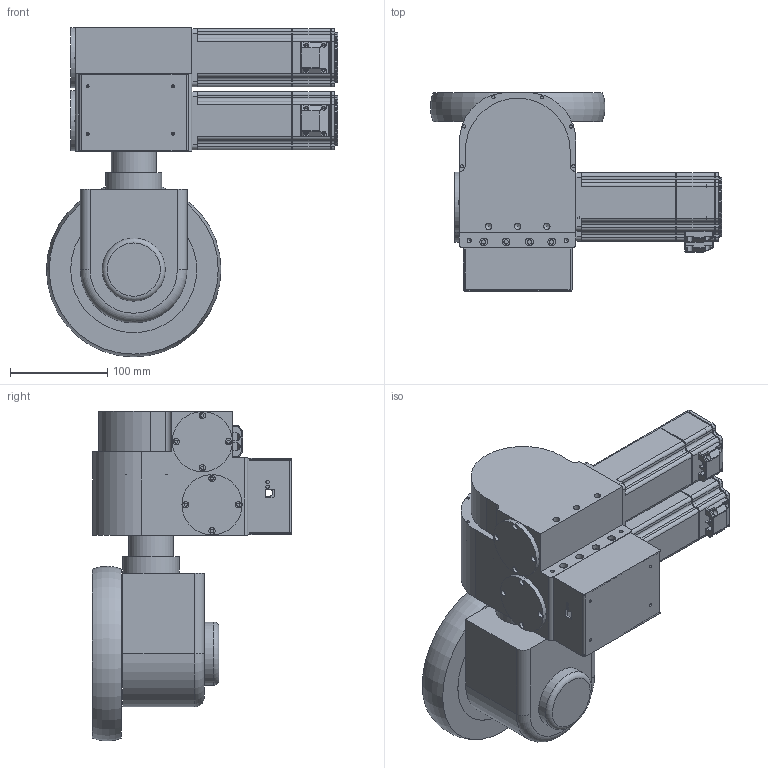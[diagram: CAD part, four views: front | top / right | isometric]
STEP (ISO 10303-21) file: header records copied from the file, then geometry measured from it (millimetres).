
FILE_DESCRIPTION(/* description */ ('','CAx-IF Rec.Pracs.---Representation and Presentation of Product Manufacturing Information (PMI)---3.8---2014-02-18'),/* implementation_level */ '2;1');
FILE_NAME(/* name */ 'D:\User\TIM\Büro\CAD Daten\CAD Projekte\Mobile Plattformen\MPO-700\Baugruppen\Drehantriebsmodul R V2.4.8 Außenteile.stp',/* time_stamp */ '2021-01-29T11:32:19+01:00',/* author */ ('tim'),/* organization */ (''),/* preprocessor_version */ 'ST-DEVELOPER v16.5',/* originating_system */ 'Autodesk Inventor 2017',/* authorisation */ '');
FILE_SCHEMA (('AP242_MANAGED_MODEL_BASED_3D_ENGINEERING_MIM_LF { 1 0 10303 442 1 1 4 }'));
Products named in the file (1): Drehantriebsmodul R V2.4.5 Außenteile
Bounding box: 300.05 x 205.3 x 339.9 mm (x, y, z)
Volume: 4559864.7 mm3; surface area: 461609.9 mm2
Topology: 1 solids, 14 shells, 1844 faces, 5103 edges, 3365 vertices
Faces by surface type: plane 884, cylinder 609, bspline 108, cone 100, torus 91, sphere 52
Full cylindrical faces by diameter (mm): 1.6 x2, 2.013 x16, 2.05 x16, 2.5 x16, 2.7 x8, 2.9 x8, 3 x4, 3.3 x6, 3.4 x8, 3.5 x34, 4.134 x2, 4.5 x4, 4.917 x6, 5.5 x16, 5.8 x8, 6 x8, 6.5 x8, 6.6 x6, 6.647 x3, 7.7 x2, 8 x8, 8.376 x1, 9.6 x4, 10 x4, 12 x8, 12.4 x2, 12.9 x2, 13 x4, 14.6 x4, 15 x2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
Entity records: 63418 total; most frequent: CARTESIAN_POINT 18206, DIRECTION 9358, ORIENTED_EDGE 8922, EDGE_CURVE 4461, AXIS2_PLACEMENT_3D 3640, VERTEX_POINT 3164, EDGE_LOOP 2531, LINE 2078
